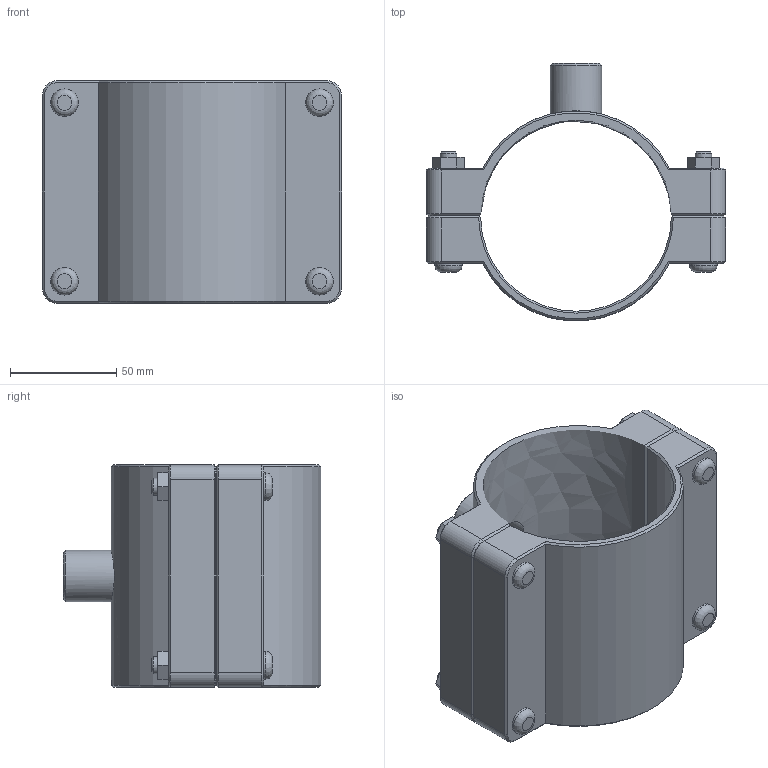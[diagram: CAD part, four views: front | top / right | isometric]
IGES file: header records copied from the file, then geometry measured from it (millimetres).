
Global section: file name: 160760090005_160860090005.ipt; native system: Autodesk Inventor 2015; preprocessor: unknown; author: KIM; date: 20170618.093522; units: millimetre
Bounding box: 141 x 121.32 x 105 mm (x, y, z)
Volume: 361066 mm3; surface area: 91850 mm2
Topology: 1 solids, 1 shells, 141 faces, 328 edges, 205 vertices
Faces by surface type: plane 82, cone 25, cylinder 23, revolution 11
Full cylindrical faces by diameter (mm): 8 x4, 13 x8, 24.22 x1
